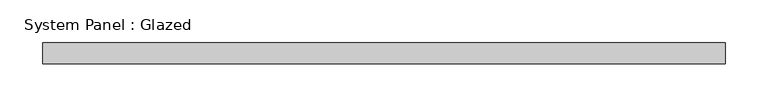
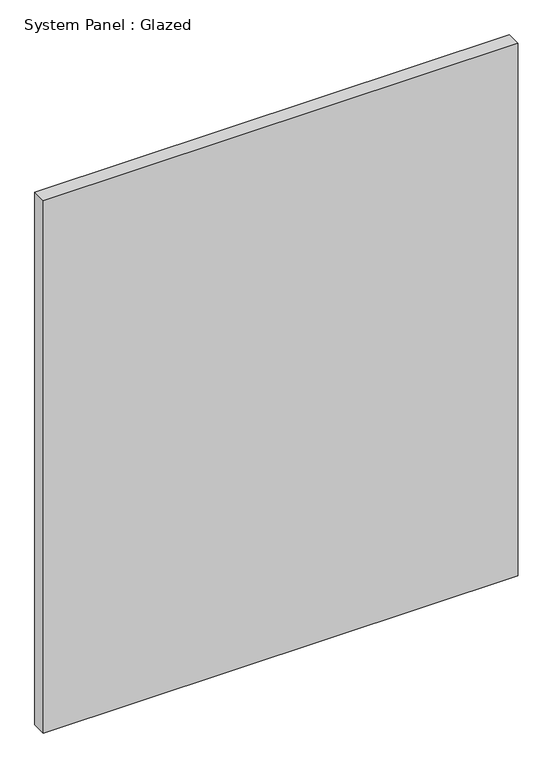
"""IFC4 building model written with IfcOpenShell, lengths in millimetres: plate geometry, System Panel : Glazed."""

from ifc_helpers import new_model, si_unit, origin, origin_with_axes, place, context, project, spatial, polyline, outline, extrude, source, transform, mapped, element, save


def system_panel_glazed_2f951cd1(model_context):
    return source(origin(), model_context, "Body", "SweptSolid", [
        extrude(outline(polyline([(400.5766294, 24.5), (-400.5766294, 24.5), (-400.5766294, 49.5), (400.5766294, 49.5), (400.5766294, 24.5)])), origin_with_axes(), (0.0, 0.0, 1.0), 950.0),
    ])


if __name__ == "__main__":
    model = new_model("IFC4")
    model_context = context("Model", 3, world=origin())
    ifc_project = project(units=[si_unit("LENGTHUNIT", "METRE", prefix="MILLI")], contexts=[model_context])
    site = spatial("IfcSite", under=ifc_project)
    building = spatial("IfcBuilding", under=site)
    placement = place(None, origin())
    system_panel_glazed_shape = system_panel_glazed_2f951cd1(model_context)
    element("IfcPlate", 1, ObjectType="System Panel : Glazed", at=placement, inside=building, context=model_context, shape_type="MappedRepresentation", body=[
        mapped(system_panel_glazed_shape, transform((0.0, 0.0, 0.0), x_axis=(1.0, 0.0, 0.0), y_axis=(0.0, 1.0, 0.0), z_axis=(0.0, 0.0, 1.0))),
    ])
    save(model, "model.ifc")
